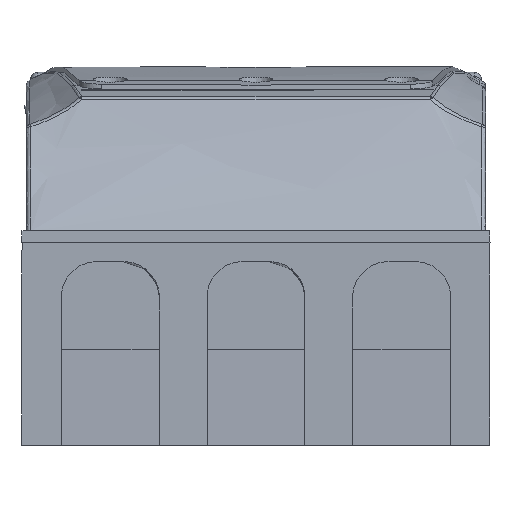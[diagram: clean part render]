
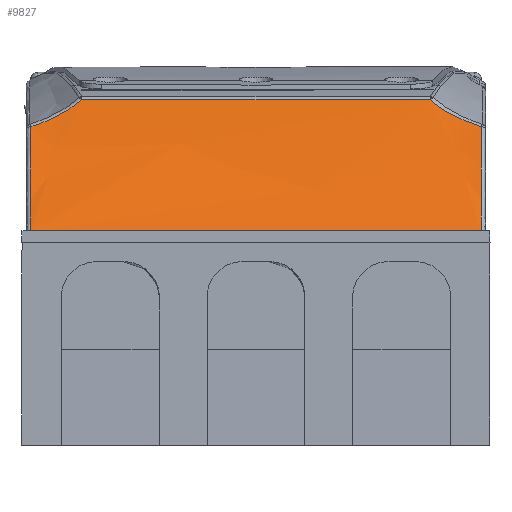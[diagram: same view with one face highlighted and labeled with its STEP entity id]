
A CAD part, left-side view. The second image highlights one B-rep face of the part: STEP entity #9827.
In plain terms, the highlighted face is a extrusion surface.
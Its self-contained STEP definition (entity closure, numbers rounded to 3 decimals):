
#3818=SURFACE_OF_LINEAR_EXTRUSION('',#4929,#7712);
#4929=ELLIPSE('',#30165,35.,12.5);
#5842=LINE('',#41221,#7267);
#6248=LINE('',#52281,#7673);
#7267=VECTOR('',#32745,1.);
#7673=VECTOR('',#34553,1.);
#7712=VECTOR('',#34834,1.);
#8695=B_SPLINE_CURVE_WITH_KNOTS('',3,(#42081,#42082,#42083,#42084,#42085,
#42086),.UNSPECIFIED.,.F.,.F.,(4,2,4),(0.,0.5,1.),.UNSPECIFIED.);
#9056=B_SPLINE_CURVE_WITH_KNOTS('',3,(#52249,#52250,#52251,#52252,#52253,
#52254),.UNSPECIFIED.,.F.,.F.,(4,2,4),(0.,0.5,1.),.UNSPECIFIED.);
#9075=B_SPLINE_CURVE_WITH_KNOTS('',3,(#52725,#52726,#52727,#52728,#52729,
#52730),.UNSPECIFIED.,.F.,.F.,(4,2,4),(0.,0.5,1.),.UNSPECIFIED.);
#9113=B_SPLINE_CURVE_WITH_KNOTS('',3,(#53936,#53937,#53938,#53939,#53940,
#53941),.UNSPECIFIED.,.F.,.F.,(4,2,4),(0.,0.5,1.),.UNSPECIFIED.);
#9827=ADVANCED_FACE('',(#12029),#3818,.F.);
#12029=FACE_OUTER_BOUND('',#13458,.T.);
#13458=EDGE_LOOP('',(#17480,#17481,#17482,#17483,#17484,#17485));
#17480=ORIENTED_EDGE('',*,*,#26444,.T.);
#17481=ORIENTED_EDGE('',*,*,#26389,.T.);
#17482=ORIENTED_EDGE('',*,*,#26384,.T.);
#17483=ORIENTED_EDGE('',*,*,#25445,.T.);
#17484=ORIENTED_EDGE('',*,*,#25187,.F.);
#17485=ORIENTED_EDGE('',*,*,#26554,.T.);
#22646=VERTEX_POINT('',#41220);
#22647=VERTEX_POINT('',#41222);
#22862=VERTEX_POINT('',#42087);
#23473=VERTEX_POINT('',#52241);
#23476=VERTEX_POINT('',#52278);
#23504=VERTEX_POINT('',#52731);
#25187=EDGE_CURVE('',#22646,#22647,#5842,.T.);
#25445=EDGE_CURVE('',#22862,#22647,#8695,.T.);
#26384=EDGE_CURVE('',#23473,#22862,#9056,.T.);
#26389=EDGE_CURVE('',#23476,#23473,#6248,.T.);
#26444=EDGE_CURVE('',#23504,#23476,#9075,.T.);
#26554=EDGE_CURVE('',#22646,#23504,#9113,.T.);
#30165=AXIS2_PLACEMENT_3D('',#53942,#34832,#34833);
#32745=DIRECTION('',(0.,1.,0.));
#34553=DIRECTION('',(0.,1.,0.));
#34832=DIRECTION('',(0.,-1.,0.));
#34833=DIRECTION('',(0.568,0.,0.823));
#34834=DIRECTION('',(0.,-1.,0.));
#41220=CARTESIAN_POINT('',(-101.724,128.054,45.002));
#41221=CARTESIAN_POINT('',(-101.724,128.054,45.002));
#41222=CARTESIAN_POINT('',(-101.724,230.054,45.002));
#42081=CARTESIAN_POINT('',(-86.218,230.054,68.653));
#42082=CARTESIAN_POINT('',(-88.144,230.054,64.325));
#42083=CARTESIAN_POINT('',(-90.477,230.054,60.186));
#42084=CARTESIAN_POINT('',(-95.675,230.054,52.289));
#42085=CARTESIAN_POINT('',(-98.555,230.054,48.515));
#42086=CARTESIAN_POINT('',(-101.724,230.054,45.002));
#42087=CARTESIAN_POINT('',(-86.218,230.054,68.653));
#52241=CARTESIAN_POINT('',(-83.866,218.53,74.757));
#52249=CARTESIAN_POINT('',(-83.866,218.53,74.757));
#52250=CARTESIAN_POINT('',(-84.332,220.168,73.302));
#52251=CARTESIAN_POINT('',(-84.77,222.048,72.144));
#52252=CARTESIAN_POINT('',(-85.561,225.922,70.155));
#52253=CARTESIAN_POINT('',(-85.918,227.946,69.327));
#52254=CARTESIAN_POINT('',(-86.218,230.054,68.653));
#52278=CARTESIAN_POINT('',(-83.866,139.577,74.757));
#52281=CARTESIAN_POINT('',(-83.866,139.577,74.757));
#52725=CARTESIAN_POINT('',(-86.218,128.054,68.653));
#52726=CARTESIAN_POINT('',(-85.918,130.16,69.326));
#52727=CARTESIAN_POINT('',(-85.559,132.197,70.159));
#52728=CARTESIAN_POINT('',(-84.761,136.098,72.166));
#52729=CARTESIAN_POINT('',(-84.33,137.946,73.308));
#52730=CARTESIAN_POINT('',(-83.866,139.577,74.757));
#52731=CARTESIAN_POINT('',(-86.218,128.054,68.653));
#53936=CARTESIAN_POINT('',(-101.724,128.054,45.002));
#53937=CARTESIAN_POINT('',(-98.56,128.054,48.509));
#53938=CARTESIAN_POINT('',(-95.679,128.054,52.283));
#53939=CARTESIAN_POINT('',(-90.477,128.054,60.186));
#53940=CARTESIAN_POINT('',(-88.144,128.054,64.326));
#53941=CARTESIAN_POINT('',(-86.218,128.054,68.653));
#53942=CARTESIAN_POINT('',(-104.569,231.054,61.55));
